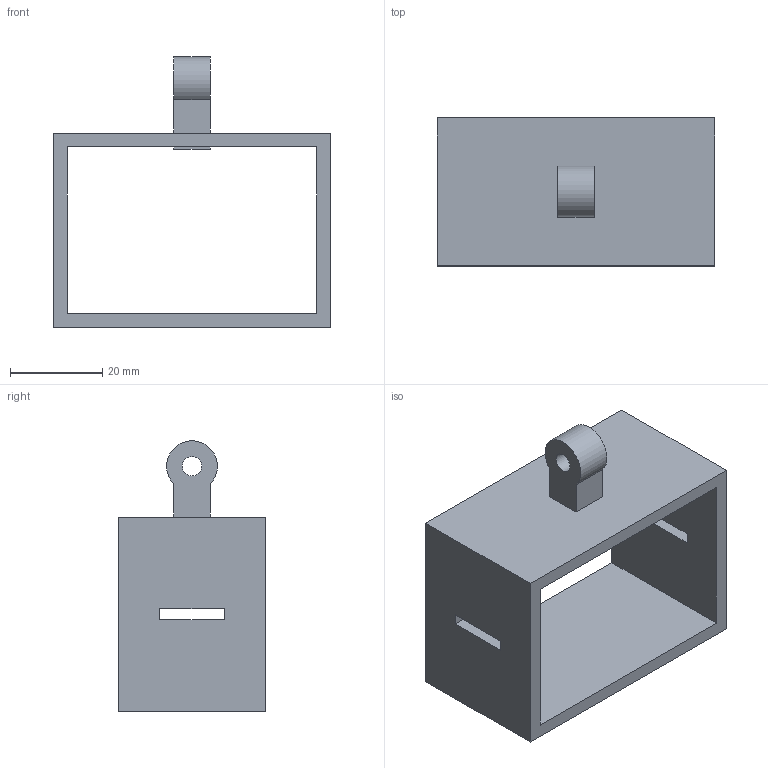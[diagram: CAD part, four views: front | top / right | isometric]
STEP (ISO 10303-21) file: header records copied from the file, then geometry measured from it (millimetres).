
FILE_DESCRIPTION(('Open CASCADE Model'),'2;1');
FILE_NAME('Open CASCADE Shape Model','2026-09-20T05:39:32',('Author'),( 'Open CASCADE'),'Open CASCADE STEP processor 7.9','Open CASCADE 7.9' ,'Unknown');
FILE_SCHEMA(('AUTOMOTIVE_DESIGN { 1 0 10303 214 1 1 1 1 }'));
Length unit declared in the file: millimetre
Products named in the file (1): Open CASCADE STEP translator 7.9 5
Bounding box: 60 x 32 x 58.48 mm (x, y, z)
Volume: 19298 mm3; surface area: 14139.2 mm2
Topology: 1 solids, 1 shells, 29 faces, 75 edges, 50 vertices
Faces by surface type: plane 27, cylinder 2
Full cylindrical faces by diameter (mm): 4.2 x1
Entity records: 1825 total; most frequent: CARTESIAN_POINT 363, DIRECTION 236, LINE 165, VECTOR 165, ORIENTED_EDGE 150, PCURVE 150, DEFINITIONAL_REPRESENTATION 150, EDGE_CURVE 75
